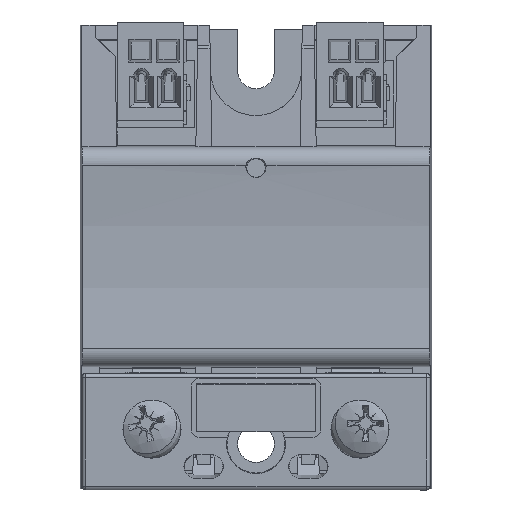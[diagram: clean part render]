
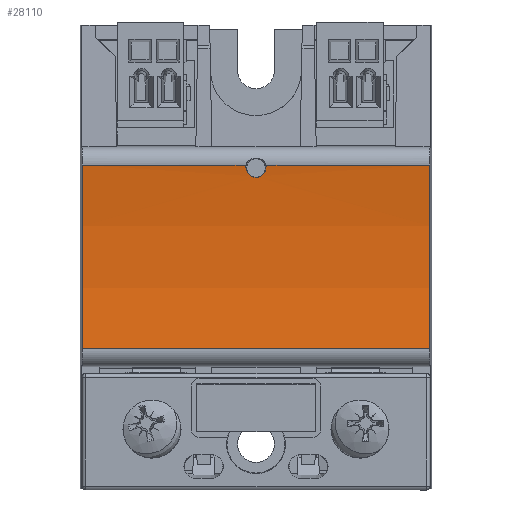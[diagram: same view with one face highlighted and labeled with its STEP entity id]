
A CAD part, top view. The second image highlights one B-rep face of the part: STEP entity #28110.
In plain terms, the highlighted cylindrical face has radius 80 mm (diameter 160 mm), a partial arc.
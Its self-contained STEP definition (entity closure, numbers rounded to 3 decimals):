
#25378=CARTESIAN_POINT('',(0.962,10.625,28.484));
#25379=VERTEX_POINT('',#25378);
#25380=CARTESIAN_POINT('',(-0.962,10.625,28.484));
#25381=VERTEX_POINT('',#25380);
#25404=CARTESIAN_POINT('',(-0.962,10.625,28.484));
#25405=CARTESIAN_POINT('',(-0.922,10.568,28.477));
#25406=CARTESIAN_POINT('',(-0.878,10.516,28.47));
#25407=CARTESIAN_POINT('',(-0.727,10.365,28.45));
#25408=CARTESIAN_POINT('',(-0.595,10.275,28.438));
#25409=CARTESIAN_POINT('',(-0.305,10.155,28.423));
#25410=CARTESIAN_POINT('',(-0.148,10.125,28.419));
#25411=CARTESIAN_POINT('',(0.147,10.125,28.419));
#25412=CARTESIAN_POINT('',(0.305,10.154,28.423));
#25413=CARTESIAN_POINT('',(0.594,10.274,28.438));
#25414=CARTESIAN_POINT('',(0.725,10.364,28.45));
#25415=CARTESIAN_POINT('',(0.877,10.515,28.47));
#25416=CARTESIAN_POINT('',(0.921,10.568,28.477));
#25417=CARTESIAN_POINT('',(0.962,10.625,28.484));
#25418=B_SPLINE_CURVE_WITH_KNOTS('',3,(#25404,#25405,#25406,#25407,#25408,#25409,#25410,#25411,#25412,#25413,#25414,#25415,#25416,#25417),.UNSPECIFIED.,.F.,.U.,(4,2,2,2,2,2,4),(0.247,0.267,0.312,0.356,0.4,0.444,0.465),.UNSPECIFIED.);
#25419=EDGE_CURVE('',#25381,#25379,#25418,.T.);
#28005=CARTESIAN_POINT('',(1.267,11.688,28.634));
#28006=VERTEX_POINT('',#28005);
#28007=CARTESIAN_POINT('',(1.267,11.688,28.634));
#28008=CARTESIAN_POINT('',(1.287,11.557,28.615));
#28009=CARTESIAN_POINT('',(1.286,11.424,28.596));
#28010=CARTESIAN_POINT('',(1.247,11.149,28.556));
#28011=CARTESIAN_POINT('',(1.196,10.991,28.534));
#28012=CARTESIAN_POINT('',(1.073,10.768,28.504));
#28013=CARTESIAN_POINT('',(1.02,10.693,28.494));
#28014=CARTESIAN_POINT('',(0.962,10.625,28.484));
#28015=B_SPLINE_CURVE_WITH_KNOTS('',3,(#28007,#28008,#28009,#28010,#28011,#28012,#28013,#28014),.UNSPECIFIED.,.F.,.U.,(4,2,2,4),(0.57,0.608,0.654,0.68),.UNSPECIFIED.);
#28016=EDGE_CURVE('',#28006,#25379,#28015,.T.);
#28018=CARTESIAN_POINT('',(-1.267,11.688,28.634));
#28019=VERTEX_POINT('',#28018);
#28045=CARTESIAN_POINT('',(-0.962,10.625,28.484));
#28046=CARTESIAN_POINT('',(-1.02,10.693,28.494));
#28047=CARTESIAN_POINT('',(-1.073,10.768,28.504));
#28048=CARTESIAN_POINT('',(-1.196,10.991,28.534));
#28049=CARTESIAN_POINT('',(-1.247,11.149,28.556));
#28050=CARTESIAN_POINT('',(-1.286,11.424,28.596));
#28051=CARTESIAN_POINT('',(-1.287,11.557,28.615));
#28052=CARTESIAN_POINT('',(-1.267,11.688,28.634));
#28053=B_SPLINE_CURVE_WITH_KNOTS('',3,(#28045,#28046,#28047,#28048,#28049,#28050,#28051,#28052),.UNSPECIFIED.,.F.,.U.,(4,2,2,4),(0.105,0.131,0.177,0.215),.UNSPECIFIED.);
#28054=EDGE_CURVE('',#25381,#28019,#28053,.T.);
#28060=CARTESIAN_POINT('',(0.,-0.008,107.775));
#28061=DIRECTION('',(1.0,0.,0.));
#28062=DIRECTION('',(0.,0.174,-0.985));
#28063=AXIS2_PLACEMENT_3D('',#28060,#28061,#28062);
#28064=CYLINDRICAL_SURFACE('',#28063,80.);
#28065=ORIENTED_EDGE('',*,*,#28016,.T.);
#28066=ORIENTED_EDGE('',*,*,#25419,.F.);
#28067=ORIENTED_EDGE('',*,*,#28054,.T.);
#28068=CARTESIAN_POINT('',(-22.145,11.688,28.634));
#28069=VERTEX_POINT('',#28068);
#28070=CARTESIAN_POINT('',(-22.145,11.688,28.634));
#28071=DIRECTION('',(1.0,0.0,0.0));
#28072=VECTOR('',#28071,20.878);
#28073=LINE('',#28070,#28072);
#28074=EDGE_CURVE('',#28069,#28019,#28073,.T.);
#28075=ORIENTED_EDGE('',*,*,#28074,.F.);
#28076=CARTESIAN_POINT('',(-22.145,-11.704,28.634));
#28077=VERTEX_POINT('',#28076);
#28078=CARTESIAN_POINT('',(-20.763,-0.008,107.775));
#28079=DIRECTION('',(1.,0.,-0.017));
#28080=DIRECTION('',(-0.017,0.,-1.));
#28081=AXIS2_PLACEMENT_3D('',#28078,#28079,#28080);
#28082=ELLIPSE('',#28081,80.012,80.0);
#28083=EDGE_CURVE('',#28077,#28069,#28082,.T.);
#28084=ORIENTED_EDGE('',*,*,#28083,.F.);
#28085=CARTESIAN_POINT('',(22.145,-11.704,28.634));
#28086=VERTEX_POINT('',#28085);
#28087=CARTESIAN_POINT('',(22.145,-11.704,28.634));
#28088=DIRECTION('',(-1.0,0.0,0.0));
#28089=VECTOR('',#28088,44.289);
#28090=LINE('',#28087,#28089);
#28091=EDGE_CURVE('',#28086,#28077,#28090,.T.);
#28092=ORIENTED_EDGE('',*,*,#28091,.F.);
#28093=CARTESIAN_POINT('',(22.145,11.688,28.634));
#28094=VERTEX_POINT('',#28093);
#28095=CARTESIAN_POINT('',(20.763,-0.008,107.775));
#28096=DIRECTION('',(-1.,0.,-0.017));
#28097=DIRECTION('',(0.017,0.,-1.));
#28098=AXIS2_PLACEMENT_3D('',#28095,#28096,#28097);
#28099=ELLIPSE('',#28098,80.012,80.0);
#28100=EDGE_CURVE('',#28094,#28086,#28099,.T.);
#28101=ORIENTED_EDGE('',*,*,#28100,.F.);
#28102=CARTESIAN_POINT('',(1.267,11.688,28.634));
#28103=DIRECTION('',(1.0,0.0,0.0));
#28104=VECTOR('',#28103,20.878);
#28105=LINE('',#28102,#28104);
#28106=EDGE_CURVE('',#28006,#28094,#28105,.T.);
#28107=ORIENTED_EDGE('',*,*,#28106,.F.);
#28108=EDGE_LOOP('',(#28065,#28066,#28067,#28075,#28084,#28092,#28101,#28107));
#28109=FACE_OUTER_BOUND('',#28108,.T.);
#28110=ADVANCED_FACE('',(#28109),#28064,.F.);
